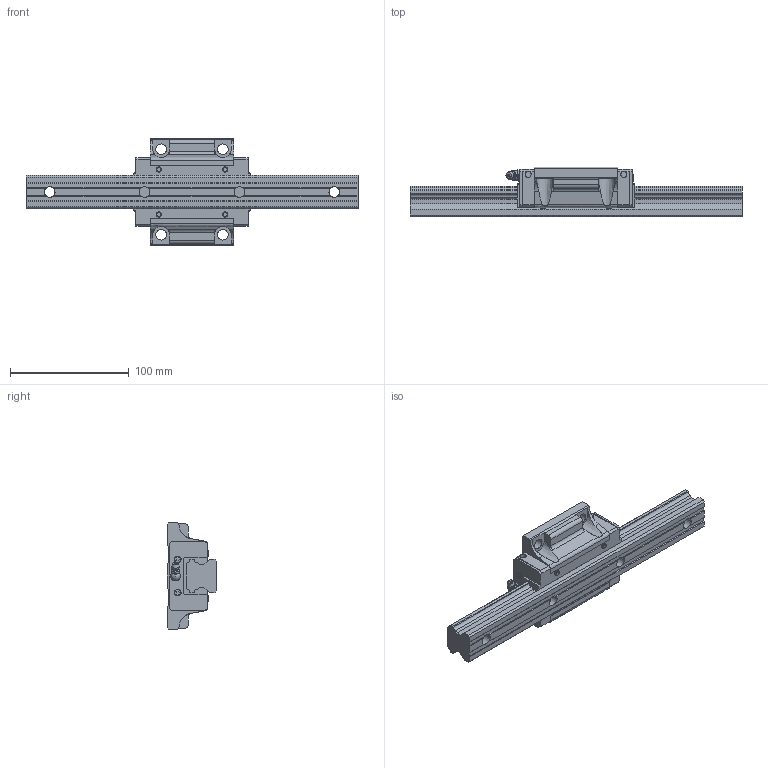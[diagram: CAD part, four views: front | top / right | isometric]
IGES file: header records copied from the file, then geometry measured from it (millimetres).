
Start section: Data from Parasolid IGES Translator 26.0.171, Copyright(c) 2006 Siemens PLM Software. All Rights Reserved.
Global section: file name: HSR30M1B1SS-280L_G20_0_B-M6F_90-55_0_0_0.igs; native system: By Siemens PLM Incorporated; preprocessor: XPlus GENERIC/IGES 26.0.171; author: Noname; organization: Noname; date: 20240523.061419; units: inch
Bounding box: 280 x 42 x 90 mm (x, y, z)
Surface area: 67886.5 mm2 (no closed solid volume)
Topology: 0 solids, 0 shells, 305 faces, 1670 edges, 1622 vertices
Faces by surface type: extrusion 222, revolution 83
